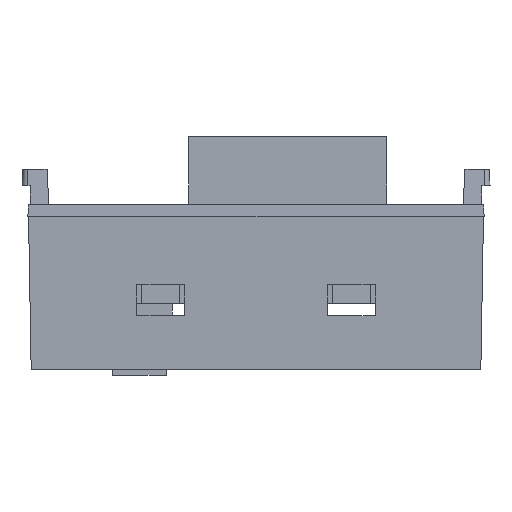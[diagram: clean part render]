
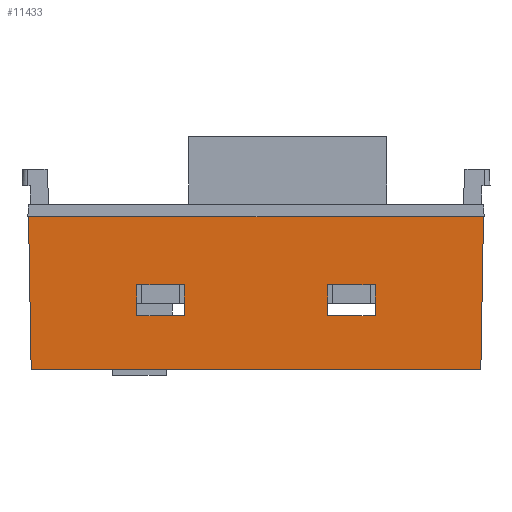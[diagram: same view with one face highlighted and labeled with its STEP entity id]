
A CAD part, front view. The second image highlights one B-rep face of the part: STEP entity #11433.
In plain terms, the highlighted planar face has unit normal (0, -1, -0.018).
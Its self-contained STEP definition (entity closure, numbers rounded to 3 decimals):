
#17 = VECTOR ( 'NONE', #911, 1000. ) ;
#193 = DIRECTION ( 'NONE',  ( 1., 0., 0. ) ) ;
#217 = CARTESIAN_POINT ( 'NONE',  ( -96.737, -8.653, 282.922 ) ) ;
#491 = FACE_BOUND ( 'NONE', #7243, .T. ) ;
#567 = VERTEX_POINT ( 'NONE', #8186 ) ;
#810 = VECTOR ( 'NONE', #3729, 1000. ) ;
#911 = DIRECTION ( 'NONE',  ( 0.017, -0.017, 1. ) ) ;
#1029 = ORIENTED_EDGE ( 'NONE', *, *, #6348, .T. ) ;
#1068 = CARTESIAN_POINT ( 'NONE',  ( -71.674, -8.798, 291.214 ) ) ;
#1104 = CARTESIAN_POINT ( 'NONE',  ( -84.749, -8.51, 274.733 ) ) ;
#1168 = VERTEX_POINT ( 'NONE', #3758 ) ;
#1171 = DIRECTION ( 'NONE',  ( 0., -0.017, 1. ) ) ;
#1394 = ORIENTED_EDGE ( 'NONE', *, *, #12463, .T. ) ;
#1502 = VERTEX_POINT ( 'NONE', #1661 ) ;
#1526 = DIRECTION ( 'NONE',  ( 1., 0., 0. ) ) ;
#1531 = VERTEX_POINT ( 'NONE', #5521 ) ;
#1661 = CARTESIAN_POINT ( 'NONE',  ( -80.753, -8.699, 285.519 ) ) ;
#1930 = DIRECTION ( 'NONE',  ( -1., 0., 0. ) ) ;
#1953 = EDGE_CURVE ( 'NONE', #9785, #10529, #6346, .T. ) ;
#2084 = VECTOR ( 'NONE', #193, 1000. ) ;
#2132 = EDGE_CURVE ( 'NONE', #2203, #7807, #5726, .T. ) ;
#2166 = EDGE_CURVE ( 'NONE', #10675, #1168, #6743, .T. ) ;
#2203 = VERTEX_POINT ( 'NONE', #4570 ) ;
#2260 = DIRECTION ( 'NONE',  ( 0.017, 0.017, -1. ) ) ;
#2478 = LINE ( 'NONE', #11101, #10615 ) ;
#2716 = DIRECTION ( 'NONE',  ( 0., 0.017, -1. ) ) ;
#2780 = LINE ( 'NONE', #12407, #2084 ) ;
#2865 = CARTESIAN_POINT ( 'NONE',  ( -80.753, -8.51, 274.733 ) ) ;
#3151 = DIRECTION ( 'NONE',  ( 1., 0., 0. ) ) ;
#3211 = CARTESIAN_POINT ( 'NONE',  ( -109.812, -8.798, 291.214 ) ) ;
#3272 = LINE ( 'NONE', #1104, #9560 ) ;
#3379 = VERTEX_POINT ( 'NONE', #6730 ) ;
#3676 = LINE ( 'NONE', #11368, #7162 ) ;
#3692 = ORIENTED_EDGE ( 'NONE', *, *, #2166, .T. ) ;
#3729 = DIRECTION ( 'NONE',  ( -1., 0., 0. ) ) ;
#3758 = CARTESIAN_POINT ( 'NONE',  ( -84.749, -8.653, 282.922 ) ) ;
#4096 = AXIS2_PLACEMENT_3D ( 'NONE', #7524, #11345, #2716 ) ;
#4348 = FACE_BOUND ( 'NONE', #9356, .T. ) ;
#4472 = EDGE_CURVE ( 'NONE', #3379, #1502, #2478, .T. ) ;
#4508 = VECTOR ( 'NONE', #1171, 1000. ) ;
#4570 = CARTESIAN_POINT ( 'NONE',  ( -71.897, -8.575, 278.426 ) ) ;
#4637 = ORIENTED_EDGE ( 'NONE', *, *, #2132, .T. ) ;
#5039 = CARTESIAN_POINT ( 'NONE',  ( -100.733, -8.51, 274.733 ) ) ;
#5192 = EDGE_CURVE ( 'NONE', #1531, #7807, #2780, .T. ) ;
#5521 = CARTESIAN_POINT ( 'NONE',  ( -109.812, -8.798, 291.214 ) ) ;
#5726 = LINE ( 'NONE', #9588, #17 ) ;
#5738 = EDGE_CURVE ( 'NONE', #10529, #10558, #3676, .T. ) ;
#5747 = LINE ( 'NONE', #12400, #810 ) ;
#6291 = VECTOR ( 'NONE', #1526, 1000. ) ;
#6346 = LINE ( 'NONE', #10185, #6291 ) ;
#6348 = EDGE_CURVE ( 'NONE', #1168, #3379, #3272, .T. ) ;
#6383 = DIRECTION ( 'NONE',  ( 0., -0.017, 1. ) ) ;
#6420 = CARTESIAN_POINT ( 'NONE',  ( -90.743, -8.575, 278.426 ) ) ;
#6522 = ORIENTED_EDGE ( 'NONE', *, *, #12393, .T. ) ;
#6589 = DIRECTION ( 'NONE',  ( 0., 0.017, -1. ) ) ;
#6715 = LINE ( 'NONE', #2865, #12141 ) ;
#6730 = CARTESIAN_POINT ( 'NONE',  ( -84.749, -8.699, 285.519 ) ) ;
#6743 = LINE ( 'NONE', #10566, #9852 ) ;
#6807 = DIRECTION ( 'NONE',  ( 0., 0.017, -1. ) ) ;
#6824 = VERTEX_POINT ( 'NONE', #11092 ) ;
#6888 = VECTOR ( 'NONE', #2260, 1000. ) ;
#7068 = LINE ( 'NONE', #3211, #6888 ) ;
#7162 = VECTOR ( 'NONE', #6589, 1000. ) ;
#7243 = EDGE_LOOP ( 'NONE', ( #8075, #10999, #3692, #1029 ) ) ;
#7399 = CARTESIAN_POINT ( 'NONE',  ( -80.753, -8.653, 282.922 ) ) ;
#7524 = CARTESIAN_POINT ( 'NONE',  ( -90.743, -8.51, 274.733 ) ) ;
#7807 = VERTEX_POINT ( 'NONE', #1068 ) ;
#7940 = LINE ( 'NONE', #6420, #12104 ) ;
#8075 = ORIENTED_EDGE ( 'NONE', *, *, #4472, .T. ) ;
#8186 = CARTESIAN_POINT ( 'NONE',  ( -100.733, -8.653, 282.922 ) ) ;
#8225 = FACE_OUTER_BOUND ( 'NONE', #12052, .T. ) ;
#8295 = CARTESIAN_POINT ( 'NONE',  ( -100.733, -8.699, 285.519 ) ) ;
#8692 = ORIENTED_EDGE ( 'NONE', *, *, #5192, .F. ) ;
#8917 = LINE ( 'NONE', #5039, #4508 ) ;
#9324 = EDGE_CURVE ( 'NONE', #1531, #6824, #7068, .T. ) ;
#9356 = EDGE_LOOP ( 'NONE', ( #10021, #11651, #6522, #11106 ) ) ;
#9560 = VECTOR ( 'NONE', #6383, 1000. ) ;
#9588 = CARTESIAN_POINT ( 'NONE',  ( -71.897, -8.575, 278.426 ) ) ;
#9785 = VERTEX_POINT ( 'NONE', #8295 ) ;
#9852 = VECTOR ( 'NONE', #1930, 1000. ) ;
#9889 = CARTESIAN_POINT ( 'NONE',  ( -96.737, -8.699, 285.519 ) ) ;
#10021 = ORIENTED_EDGE ( 'NONE', *, *, #1953, .T. ) ;
#10173 = DIRECTION ( 'NONE',  ( 1., 0., 0. ) ) ;
#10185 = CARTESIAN_POINT ( 'NONE',  ( -90.743, -8.699, 285.519 ) ) ;
#10529 = VERTEX_POINT ( 'NONE', #9889 ) ;
#10558 = VERTEX_POINT ( 'NONE', #217 ) ;
#10560 = EDGE_CURVE ( 'NONE', #567, #9785, #8917, .T. ) ;
#10566 = CARTESIAN_POINT ( 'NONE',  ( -90.743, -8.653, 282.922 ) ) ;
#10615 = VECTOR ( 'NONE', #10173, 1000. ) ;
#10675 = VERTEX_POINT ( 'NONE', #7399 ) ;
#10999 = ORIENTED_EDGE ( 'NONE', *, *, #11054, .T. ) ;
#11054 = EDGE_CURVE ( 'NONE', #1502, #10675, #6715, .T. ) ;
#11092 = CARTESIAN_POINT ( 'NONE',  ( -109.589, -8.575, 278.426 ) ) ;
#11101 = CARTESIAN_POINT ( 'NONE',  ( -90.743, -8.699, 285.519 ) ) ;
#11106 = ORIENTED_EDGE ( 'NONE', *, *, #10560, .T. ) ;
#11345 = DIRECTION ( 'NONE',  ( 0., -1., -0.017 ) ) ;
#11368 = CARTESIAN_POINT ( 'NONE',  ( -96.737, -8.51, 274.733 ) ) ;
#11433 = ADVANCED_FACE ( 'NONE', ( #491, #4348, #8225 ), #12033, .T. ) ;
#11651 = ORIENTED_EDGE ( 'NONE', *, *, #5738, .T. ) ;
#11978 = ORIENTED_EDGE ( 'NONE', *, *, #9324, .T. ) ;
#12033 = PLANE ( 'NONE',  #4096 ) ;
#12052 = EDGE_LOOP ( 'NONE', ( #8692, #11978, #1394, #4637 ) ) ;
#12104 = VECTOR ( 'NONE', #3151, 1000. ) ;
#12141 = VECTOR ( 'NONE', #6807, 1000. ) ;
#12393 = EDGE_CURVE ( 'NONE', #10558, #567, #5747, .T. ) ;
#12400 = CARTESIAN_POINT ( 'NONE',  ( -90.743, -8.653, 282.922 ) ) ;
#12407 = CARTESIAN_POINT ( 'NONE',  ( -90.743, -8.798, 291.214 ) ) ;
#12463 = EDGE_CURVE ( 'NONE', #6824, #2203, #7940, .T. ) ;
